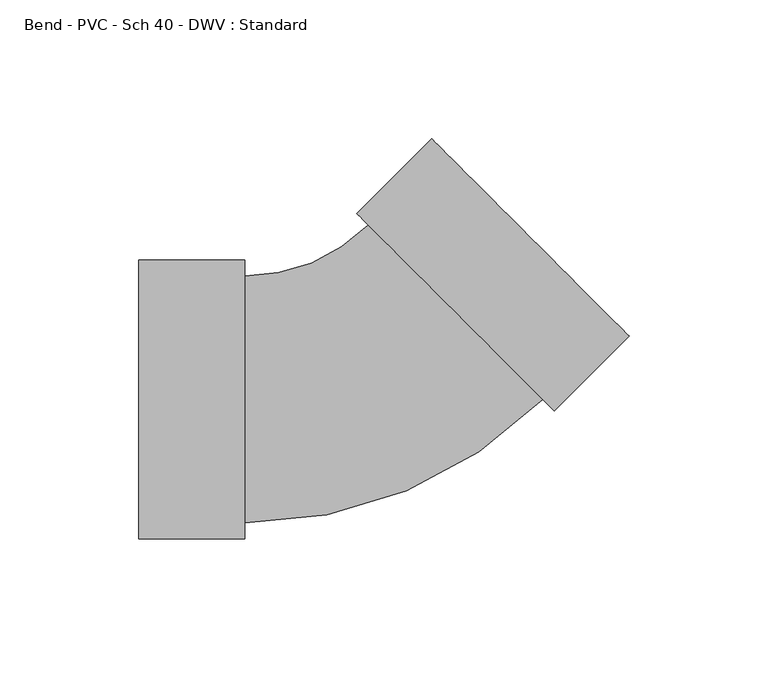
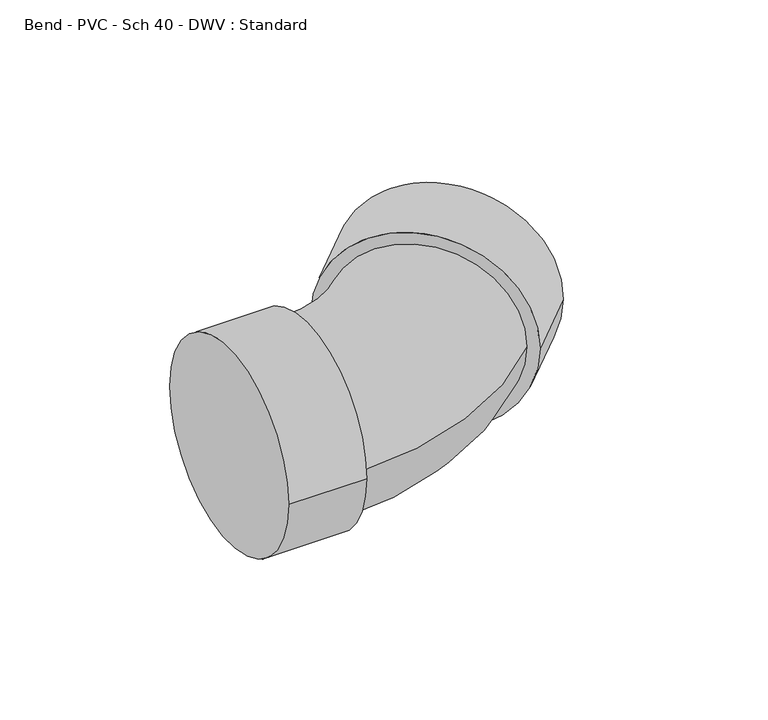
"""IFC4 building model written with IfcOpenShell, lengths in millimetres: pipe fitting geometry, Bend - PVC - Sch 40 - DWV : Standard."""

from ifc_helpers import new_model, si_unit, point, frame, origin, place, context, project, spatial, circle_curve, ellipse_curve, trimmed, source, transform, mapped, element, save
from ifc_brep_helpers import plane_surface, cylinder_surface, revolved_surface, advanced_brep


def bend_pvc_sch_40_dwv_standard_75b824f9(model_context):
    return source(origin(), model_context, "Body", "AdvancedBrep", [
        advanced_brep(
        [(-82.55, -50.2666, 0.0), (-82.55, 50.2666, 0.0), (-44.45, -50.2666, 0.0), (-44.45, 50.2666, 0.0), (-44.45, -44.45, 0.0), (-44.45, 44.45, 0.0), (0.0292279, 62.8617861, 0.0), (62.8617861, -0.0292279, 0.0), (66.9728306, -4.1440971, 0.0), (-4.0818166, 66.9766553, 0.0), (93.9261223, 22.784142, 0.0), (22.8714751, 93.9048944, 0.0)],
        [
            (0, 1, circle_curve(frame((-82.55, 0.0, 0.0), z_axis=(-1.0, 0.0, 0.0), x_axis=(0.0, 1.0, 0.0)), 50.2666)),
            (1, 0, circle_curve(frame((-82.55, 0.0, 0.0), z_axis=(-1.0, 0.0, 0.0), x_axis=(0.0, 1.0, 0.0)), 50.2666)),
            (2, 3, circle_curve(frame((-44.45, 0.0, 0.0), z_axis=(1.0, 0.0, 0.0), x_axis=(0.0, 1.0, 0.0)), 50.2666)),
            (3, 2, circle_curve(frame((-44.45, 0.0, 0.0), z_axis=(1.0, 0.0, 0.0), x_axis=(0.0, 1.0, 0.0)), 50.2666)),
            (4, 5, circle_curve(frame((-44.45, 0.0, 0.0), z_axis=(-1.0, 0.0, 0.0), x_axis=(0.0, 1.0, 0.0)), 44.45)),
            (5, 4, circle_curve(frame((-44.45, 0.0, 0.0), z_axis=(-1.0, 0.0, 0.0), x_axis=(0.0, 1.0, 0.0)), 44.45)),
            (0, 2),
            (3, 1),
            (6, 5, circle_curve(frame((-44.45, 107.382395, 0.0), z_axis=(0.0, 0.0, -1.0), x_axis=(0.0, -1.0, 0.0)), 62.932395)),
            (4, 7, circle_curve(frame((-44.45, 107.382395, 0.0), z_axis=(0.0, 0.0, 1.0), x_axis=(0.0, -1.0, 0.0)), 151.832395)),
            (7, 6, circle_curve(frame((31.445507, 31.4162791, 0.0), z_axis=(-0.7074354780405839, -0.7067779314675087, 0.0), x_axis=(-0.7067779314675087, 0.7074354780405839, 0.0)), 44.45)),
            (6, 7, circle_curve(frame((31.445507, 31.4162791, 0.0), z_axis=(-0.7074354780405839, -0.7067779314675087, 0.0), x_axis=(-0.7067779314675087, 0.7074354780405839, 0.0)), 44.45)),
            (8, 9, circle_curve(frame((31.445507, 31.4162791, 0.0), z_axis=(-0.7074354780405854, -0.7067779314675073, 0.0), x_axis=(-0.7067779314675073, 0.7074354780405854, 0.0)), 50.2666)),
            (9, 8, circle_curve(frame((31.445507, 31.4162791, 0.0), z_axis=(-0.7074354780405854, -0.7067779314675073, 0.0), x_axis=(-0.7067779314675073, 0.7074354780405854, 0.0)), 50.2666)),
            (10, 11, circle_curve(frame((58.3987987, 58.3445182, 0.0), z_axis=(0.7074354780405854, 0.7067779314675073, 0.0), x_axis=(-0.7067779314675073, 0.7074354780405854, 0.0)), 50.2666)),
            (11, 10, circle_curve(frame((58.3987987, 58.3445182, 0.0), z_axis=(0.7074354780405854, 0.7067779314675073, 0.0), x_axis=(-0.7067779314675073, 0.7074354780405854, 0.0)), 50.2666)),
            (8, 10),
            (11, 9),
        ],
        [
            plane_surface(frame((-82.55, 0.0, 0.0), z_axis=(-1.0, 0.0, 0.0), x_axis=(0.0, 0.0, 1.0))),
            plane_surface(frame((-44.45, 0.0, 0.0), z_axis=(1.0, 0.0, 0.0), x_axis=(0.0, 0.0, 1.0))),
            cylinder_surface(frame((-82.55, 0.0, 0.0), z_axis=(-1.0, 0.0, 0.0), x_axis=(0.0, 1.0, 0.0)), 50.2666),
            revolved_surface(trimmed(ellipse_curve(frame((-44.45, 0.0, 0.0), z_axis=(-1.0, 0.0, 0.0), x_axis=(0.0, 1.0, 0.0)), 44.45, 44.45), [point((-44.45, -44.45, 0.0))], [point((-44.45, 44.45, 0.0))], True, "CARTESIAN"), (-44.45, 107.382395, 0.0), (0.0, 0.0, 1.0)),
            revolved_surface(trimmed(ellipse_curve(frame((-44.45, 0.0, 0.0), z_axis=(-1.0, 0.0, 0.0), x_axis=(0.0, 1.0, 0.0)), 44.45, 44.45), [point((-44.45, 44.45, 0.0))], [point((-44.45, -44.45, 0.0))], True, "CARTESIAN"), (-44.45, 107.382395, 0.0), (0.0, 0.0, 1.0)),
            plane_surface(frame((31.445507, 31.4162791, 0.0), z_axis=(-0.7074354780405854, -0.7067779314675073, 0.0), x_axis=(0.0, 0.0, 1.0))),
            plane_surface(frame((58.3987987, 58.3445182, 0.0), z_axis=(0.7074354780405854, 0.7067779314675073, 0.0), x_axis=(0.0, 0.0, 1.0))),
            cylinder_surface(frame((31.445507, 31.4162791, 0.0), z_axis=(-0.7074354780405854, -0.7067779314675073, 0.0), x_axis=(-0.7067779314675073, 0.7074354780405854, 0.0)), 50.2666),
        ],
        [
            (0, [[1, 2]]),
            (1, [[3, 4], [5, 6]]),
            (2, [[-1, 7, -4, 8]]),
            (2, [[-2, -8, -3, -7]]),
            (3, [[9, -5, 10, 11]]),
            (4, [[-9, 12, -10, -6]]),
            (5, [[13, 14], [-11, -12]]),
            (6, [[15, 16]]),
            (7, [[-13, 17, -16, 18]]),
            (7, [[-14, -18, -15, -17]]),
        ],
    ),
    ])


if __name__ == "__main__":
    model = new_model("IFC4")
    model_context = context("Model", 3, world=origin())
    ifc_project = project(units=[si_unit("LENGTHUNIT", "METRE", prefix="MILLI")], contexts=[model_context])
    site = spatial("IfcSite", under=ifc_project)
    building = spatial("IfcBuilding", under=site)
    placement = place(None, origin())
    bend_pvc_sch_40_dwv_standard_shape = bend_pvc_sch_40_dwv_standard_75b824f9(model_context)
    element("IfcPipeFitting", 1, ObjectType="Bend - PVC - Sch 40 - DWV : Standard", at=placement, inside=building, context=model_context, shape_type="MappedRepresentation", body=[
        mapped(bend_pvc_sch_40_dwv_standard_shape, transform((0.0, 0.0, 0.0), x_axis=(1.0, 0.0, 0.0), y_axis=(0.0, 1.0, 0.0), z_axis=(0.0, 0.0, 1.0))),
    ])
    save(model, "model.ifc")
